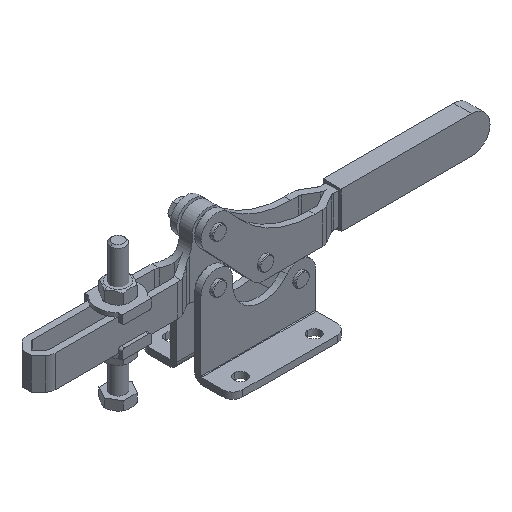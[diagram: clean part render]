
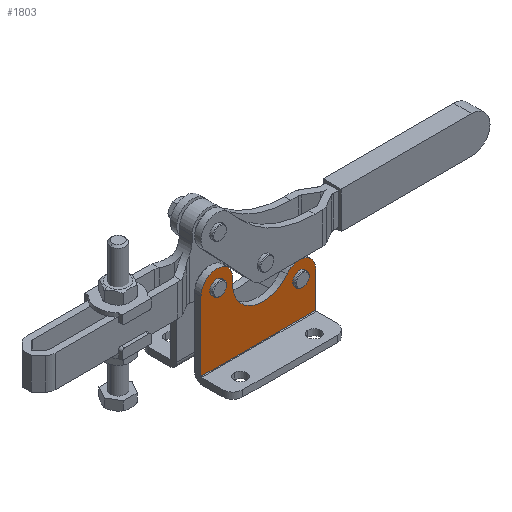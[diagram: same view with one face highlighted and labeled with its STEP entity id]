
A CAD part, isometric view. The second image highlights one B-rep face of the part: STEP entity #1803.
In plain terms, the highlighted planar face has unit normal (0, -1, 0).
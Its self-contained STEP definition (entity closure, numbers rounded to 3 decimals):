
#1378=CARTESIAN_POINT('Cartesian Point',(143.082,-12.,5.5)) ;
#1381=CARTESIAN_POINT('Line Origine',(98.082,-12.,5.5)) ;
#1385=CARTESIAN_POINT('Cartesian Point',(53.082,-12.,5.5)) ;
#1585=CARTESIAN_POINT('Line Origine',(53.082,-12.,32.75)) ;
#1589=CARTESIAN_POINT('Cartesian Point',(53.082,-12.,60.)) ;
#1691=CARTESIAN_POINT('Cartesian Point',(143.082,-12.,33.5)) ;
#1694=CARTESIAN_POINT('Line Origine',(143.082,-12.,19.5)) ;
#1731=CARTESIAN_POINT('Cartesian Point',(120.747,-12.,41.216)) ;
#1734=CARTESIAN_POINT('Axis2P3D Location',(130.582,-12.,33.5)) ;
#1762=CARTESIAN_POINT('Cartesian Point',(78.007,-12.,58.64)) ;
#1765=CARTESIAN_POINT('Axis2P3D Location',(101.865,-12.,56.03)) ;
#1777=CARTESIAN_POINT('Axis2P3D Location',(143.082,-12.,72.5)) ;
#1782=CARTESIAN_POINT('Axis2P3D Location',(65.582,-12.,60.)) ;
#1786=CARTESIAN_POINT('Cartesian Point',(65.582,-12.,72.5)) ;
#1789=CARTESIAN_POINT('Axis2P3D Location',(65.582,-12.,60.)) ;
#1382=DIRECTION('Vector Direction',(1.,0.,0.)) ;
#1586=DIRECTION('Vector Direction',(0.,0.,1.)) ;
#1695=DIRECTION('Vector Direction',(0.,0.,1.)) ;
#1735=DIRECTION('Axis2P3D Direction',(0.,1.,0.)) ;
#1766=DIRECTION('Axis2P3D Direction',(0.,1.,0.)) ;
#1778=DIRECTION('Axis2P3D Direction',(0.,-1.,0.)) ;
#1779=DIRECTION('Axis2P3D XDirection',(-1.,0.,0.)) ;
#1783=DIRECTION('Axis2P3D Direction',(0.,-1.,0.)) ;
#1790=DIRECTION('Axis2P3D Direction',(0.,-1.,0.)) ;
#1736=AXIS2_PLACEMENT_3D('Circle Axis2P3D',#1734,#1735,$) ;
#1767=AXIS2_PLACEMENT_3D('Circle Axis2P3D',#1765,#1766,$) ;
#1780=AXIS2_PLACEMENT_3D('Plane Axis2P3D',#1777,#1778,#1779) ;
#1784=AXIS2_PLACEMENT_3D('Circle Axis2P3D',#1782,#1783,$) ;
#1791=AXIS2_PLACEMENT_3D('Circle Axis2P3D',#1789,#1790,$) ;
#1795=ORIENTED_EDGE('Oriented Edge',*,*,#1698,.T.) ;
#1796=ORIENTED_EDGE('Oriented Edge',*,*,#1738,.F.) ;
#1797=ORIENTED_EDGE('Oriented Edge',*,*,#1769,.T.) ;
#1798=ORIENTED_EDGE('Oriented Edge',*,*,#1788,.F.) ;
#1799=ORIENTED_EDGE('Oriented Edge',*,*,#1793,.F.) ;
#1800=ORIENTED_EDGE('Oriented Edge',*,*,#1591,.F.) ;
#1801=ORIENTED_EDGE('Oriented Edge',*,*,#1387,.F.) ;
#1383=VECTOR('Line Direction',#1382,1.) ;
#1587=VECTOR('Line Direction',#1586,1.) ;
#1696=VECTOR('Line Direction',#1695,1.) ;
#1803=ADVANCED_FACE('',(#1802),#1781,.T.) ;
#1737=CIRCLE('generated circle',#1736,12.5) ;
#1768=CIRCLE('generated circle',#1767,24.) ;
#1785=CIRCLE('generated circle',#1784,12.5) ;
#1792=CIRCLE('generated circle',#1791,12.5) ;
#1387=EDGE_CURVE('',#1379,#1386,#1384,.F.) ;
#1591=EDGE_CURVE('',#1386,#1590,#1588,.T.) ;
#1698=EDGE_CURVE('',#1379,#1692,#1697,.T.) ;
#1738=EDGE_CURVE('',#1732,#1692,#1737,.T.) ;
#1769=EDGE_CURVE('',#1732,#1763,#1768,.T.) ;
#1788=EDGE_CURVE('',#1787,#1763,#1785,.F.) ;
#1793=EDGE_CURVE('',#1590,#1787,#1792,.F.) ;
#1794=EDGE_LOOP('Oriented Loop',(#1795,#1796,#1797,#1798,#1799,#1800,#1801)) ;
#1802=FACE_OUTER_BOUND('Face Bound',#1794,.T.) ;
#1384=LINE('Line',#1381,#1383) ;
#1588=LINE('Line',#1585,#1587) ;
#1697=LINE('Line',#1694,#1696) ;
#1781=PLANE('Plane',#1780) ;
#1379=VERTEX_POINT('Vertex Point',#1378) ;
#1386=VERTEX_POINT('Vertex Point',#1385) ;
#1590=VERTEX_POINT('Vertex Point',#1589) ;
#1692=VERTEX_POINT('Vertex Point',#1691) ;
#1732=VERTEX_POINT('Vertex Point',#1731) ;
#1763=VERTEX_POINT('Vertex Point',#1762) ;
#1787=VERTEX_POINT('Vertex Point',#1786) ;
